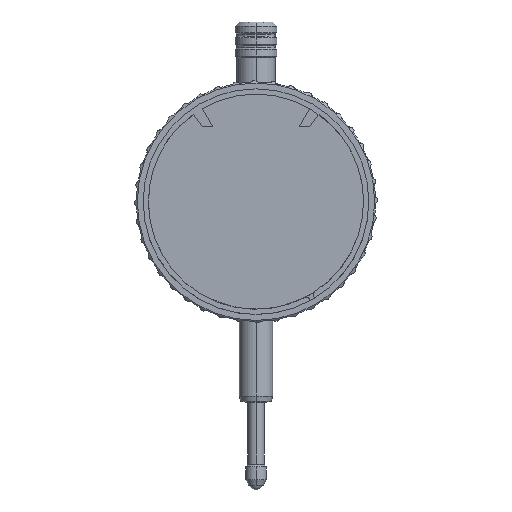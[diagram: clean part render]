
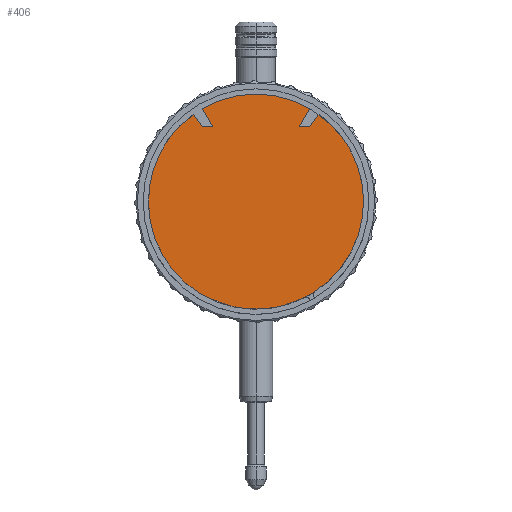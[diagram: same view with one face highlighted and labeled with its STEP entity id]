
A CAD part, front view. The second image highlights one B-rep face of the part: STEP entity #406.
In plain terms, the highlighted planar face has unit normal (0, -1, 0).
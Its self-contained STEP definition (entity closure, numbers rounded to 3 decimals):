
#406=ADVANCED_FACE('',(#1175),#1176,.F.);
#1175=FACE_OUTER_BOUND('',#2004,.T.);
#1176=PLANE('',#2005);
#2004=EDGE_LOOP('',(#5170,#5171,#5172,#5173,#5174,#5175,#5176,#5177,#5178,#5179,#5180,#5181));
#2005=AXIS2_PLACEMENT_3D('',#5182,#5183,#5184);
#5170=ORIENTED_EDGE('',*,*,#5575,.T.);
#5171=ORIENTED_EDGE('',*,*,#6549,.T.);
#5172=ORIENTED_EDGE('',*,*,#6550,.T.);
#5173=ORIENTED_EDGE('',*,*,#6551,.T.);
#5174=ORIENTED_EDGE('',*,*,#5581,.T.);
#5175=ORIENTED_EDGE('',*,*,#5583,.T.);
#5176=ORIENTED_EDGE('',*,*,#6552,.T.);
#5177=ORIENTED_EDGE('',*,*,#6553,.T.);
#5178=ORIENTED_EDGE('',*,*,#6554,.T.);
#5179=ORIENTED_EDGE('',*,*,#6555,.T.);
#5180=ORIENTED_EDGE('',*,*,#6556,.T.);
#5181=ORIENTED_EDGE('',*,*,#5585,.T.);
#5182=CARTESIAN_POINT('',(0.0,-14.8,0.0));
#5183=DIRECTION('',(0.0,1.0,0.0));
#5184=DIRECTION('',(-1.0,0.0,0.0));
#5575=EDGE_CURVE('',#6826,#6823,#6827,.T.);
#5581=EDGE_CURVE('',#6832,#6836,#6838,.T.);
#5583=EDGE_CURVE('',#6836,#6839,#6842,.T.);
#5585=EDGE_CURVE('',#6844,#6826,#6845,.T.);
#6549=EDGE_CURVE('',#6823,#8435,#8436,.T.);
#6550=EDGE_CURVE('',#8435,#8437,#8438,.T.);
#6551=EDGE_CURVE('',#8437,#6832,#8439,.T.);
#6552=EDGE_CURVE('',#6839,#8440,#8441,.T.);
#6553=EDGE_CURVE('',#8440,#8442,#8443,.T.);
#6554=EDGE_CURVE('',#8442,#8444,#8445,.T.);
#6555=EDGE_CURVE('',#8444,#8446,#8447,.T.);
#6556=EDGE_CURVE('',#8446,#6844,#8448,.T.);
#6823=VERTEX_POINT('',#8671);
#6826=VERTEX_POINT('',#8675);
#6827=CIRCLE('',#8676,0.875);
#6832=VERTEX_POINT('',#8682);
#6836=VERTEX_POINT('',#8687);
#6838=CIRCLE('',#8690,0.875);
#6839=VERTEX_POINT('',#8691);
#6842=CIRCLE('',#8695,25.75);
#6844=VERTEX_POINT('',#8697);
#6845=CIRCLE('',#8698,25.75);
#8435=VERTEX_POINT('',#14248);
#8436=CIRCLE('',#14249,0.875);
#8437=VERTEX_POINT('',#14250);
#8438=CIRCLE('',#14251,27.0);
#8439=CIRCLE('',#14252,0.875);
#8440=VERTEX_POINT('',#14253);
#8441=CIRCLE('',#14254,25.75);
#8442=VERTEX_POINT('',#14255);
#8443=LINE('',#14256,#14257);
#8444=VERTEX_POINT('',#14258);
#8445=LINE('',#14259,#14260);
#8446=VERTEX_POINT('',#14261);
#8447=LINE('',#14262,#14263);
#8448=CIRCLE('',#14264,25.75);
#8671=CARTESIAN_POINT('',(-13.812,-14.8,-22.723));
#8675=CARTESIAN_POINT('',(-14.091,-14.8,-21.553));
#8676=AXIS2_PLACEMENT_3D('',#14525,#14526,#14527);
#8682=CARTESIAN_POINT('',(-12.772,-14.8,-23.323));
#8687=CARTESIAN_POINT('',(-11.62,-14.8,-22.979));
#8690=AXIS2_PLACEMENT_3D('',#14537,#14538,#14539);
#8691=CARTESIAN_POINT('',(22.3,-14.8,12.875));
#8695=AXIS2_PLACEMENT_3D('',#14541,#14542,#14543);
#8697=CARTESIAN_POINT('',(-22.3,-14.8,-12.875));
#8698=AXIS2_PLACEMENT_3D('',#14547,#14548,#14549);
#14248=CARTESIAN_POINT('',(-14.102,-14.8,-23.025));
#14249=AXIS2_PLACEMENT_3D('',#15657,#15658,#15659);
#14250=CARTESIAN_POINT('',(-12.889,-14.8,-23.725));
#14251=AXIS2_PLACEMENT_3D('',#15660,#15661,#15662);
#14252=AXIS2_PLACEMENT_3D('',#15663,#15664,#15665);
#14253=CARTESIAN_POINT('',(14.979,-14.8,20.945));
#14254=AXIS2_PLACEMENT_3D('',#15666,#15667,#15668);
#14255=CARTESIAN_POINT('',(12.821,-14.8,17.927));
#14256=CARTESIAN_POINT('',(6.95,-14.8,9.718));
#14257=VECTOR('',#15669,1.);
#14258=CARTESIAN_POINT('',(10.35,-14.8,17.927));
#14259=CARTESIAN_POINT('',(5.793,-14.8,17.927));
#14260=VECTOR('',#15670,1.0);
#14261=CARTESIAN_POINT('',(12.875,-14.8,22.3));
#14262=CARTESIAN_POINT('',(5.806,-14.8,10.057));
#14263=VECTOR('',#15671,1.);
#14264=AXIS2_PLACEMENT_3D('',#15672,#15673,#15674);
#14525=CARTESIAN_POINT('',(-14.569,-14.8,-22.285));
#14526=DIRECTION('',(0.0,1.0,0.0));
#14527=DIRECTION('',(0.866,-0.0,-0.5));
#14537=CARTESIAN_POINT('',(-12.015,-14.8,-23.76));
#14538=DIRECTION('',(0.0,1.0,0.0));
#14539=DIRECTION('',(0.866,-0.0,-0.5));
#14541=CARTESIAN_POINT('',(0.,-14.8,0.));
#14542=DIRECTION('',(0.0,-1.0,0.0));
#14543=DIRECTION('',(0.866,0.0,0.5));
#14547=CARTESIAN_POINT('',(0.,-14.8,0.));
#14548=DIRECTION('',(0.0,-1.0,0.0));
#14549=DIRECTION('',(0.866,0.0,0.5));
#15657=CARTESIAN_POINT('',(-14.569,-14.8,-22.285));
#15658=DIRECTION('',(0.0,1.0,0.0));
#15659=DIRECTION('',(0.866,-0.0,-0.5));
#15660=CARTESIAN_POINT('',(0.0,-14.8,0.0));
#15661=DIRECTION('',(0.0,-1.0,0.0));
#15662=DIRECTION('',(-1.0,0.0,0.0));
#15663=CARTESIAN_POINT('',(-12.015,-14.8,-23.76));
#15664=DIRECTION('',(0.0,1.0,0.0));
#15665=DIRECTION('',(0.866,-0.0,-0.5));
#15666=CARTESIAN_POINT('',(0.,-14.8,0.));
#15667=DIRECTION('',(0.0,-1.0,0.0));
#15668=DIRECTION('',(0.866,0.0,0.5));
#15669=DIRECTION('',(-0.582,0.0,-0.813));
#15670=DIRECTION('',(-1.0,0.0,0.));
#15671=DIRECTION('',(0.5,0.0,0.866));
#15672=CARTESIAN_POINT('',(0.,-14.8,0.));
#15673=DIRECTION('',(0.0,-1.0,0.0));
#15674=DIRECTION('',(0.866,0.0,0.5));
